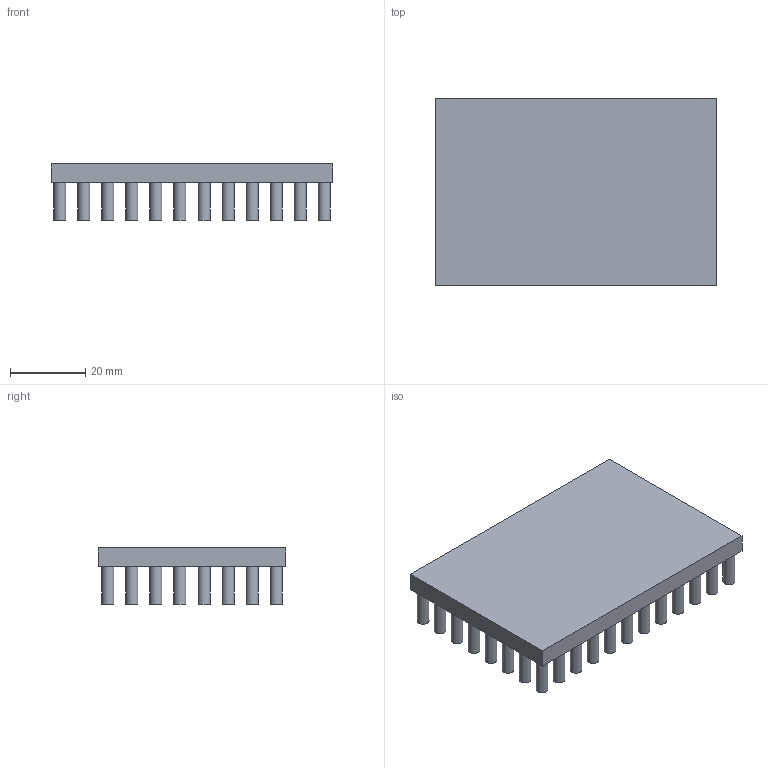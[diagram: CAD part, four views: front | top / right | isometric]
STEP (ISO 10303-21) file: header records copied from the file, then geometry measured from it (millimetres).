
FILE_DESCRIPTION(/* description */ (''),/* implementation_level */ '2;1');
FILE_NAME(/* name */ 'PB7550-B5-H15-P96.stp',/* time_stamp */ '2013-12-30T14:16:07+08:00',/* author */ (''),/* organization */ (''),/* preprocessor_version */ 'ST-DEVELOPER v14',/* originating_system */ 'SIEMENS PLM Software NX 8.0',/* authorisation */ '');
FILE_SCHEMA (('CONFIG_CONTROL_DESIGN'));
Length unit declared in the file: millimetre
Products named in the file (1): PB7550-P96
Bounding box: 75 x 50 x 15 mm (x, y, z)
Volume: 26551.2 mm3; surface area: 20061.7 mm2
Topology: 98 solids, 98 shells, 297 faces, 303 edges, 202 vertices
Faces by surface type: plane 200, cylinder 97
Full cylindrical faces by diameter (mm): 3.2 x97
Entity records: 4896 total; most frequent: DIRECTION 996, CARTESIAN_POINT 706, AXIS2_PLACEMENT_3D 492, ORIENTED_EDGE 412, EDGE_LOOP 394, ADVANCED_FACE 297, EDGE_CURVE 206, VERTEX_POINT 202
